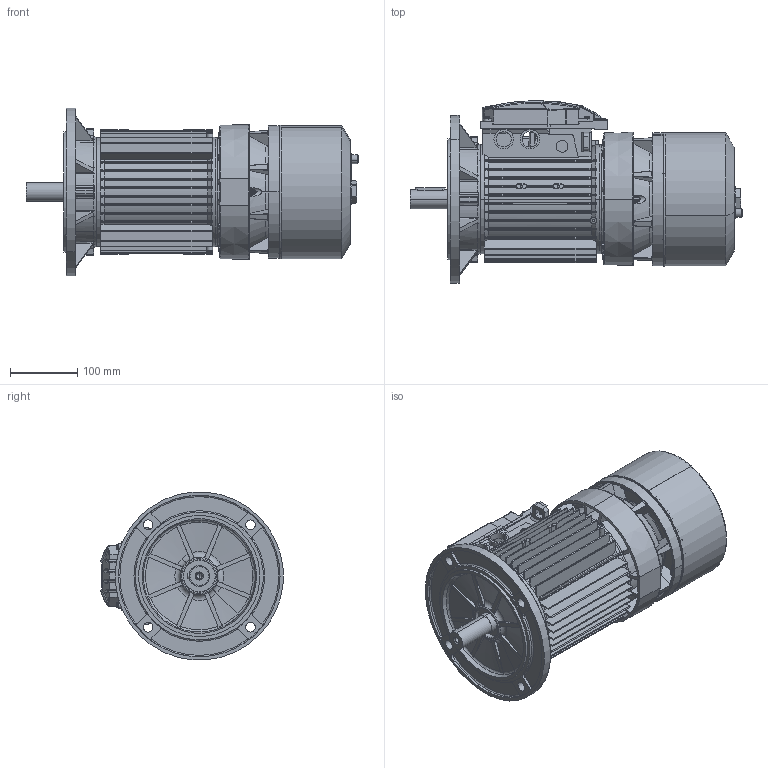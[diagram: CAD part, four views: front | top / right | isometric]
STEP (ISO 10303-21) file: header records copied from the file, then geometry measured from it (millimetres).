
FILE_DESCRIPTION (( 'STEP AP214' ), '1' );
FILE_NAME ('M02GB0016.STEP', '2021-09-17T10:55:03', ( '' ), ( '' ), 'SwSTEP 2.0', 'SolidWorks 2018', '' );
FILE_SCHEMA (( 'AUTOMOTIVE_DESIGN' ));
Length unit declared in the file: millimetre
Products named in the file (14): Convogliatore con pista d''attrito P2 BA 100 - DEAF0295; Scudo Lato Freno BA 100 P1 - DEAE0194; Scudo a flangia B5 Fi 250 BA-BM 100 - DEAA0094; Carcassa 100 B5 - DI; M02GB0016; Chiavetta 100-112; Anello per Gruppo Freno 100 - DBAU0294; Assieme coperchio scatola DI 100-112; Vite  a testa bombata M4x16; Guarnizione Coperchio scatola 100-112 DI; Coperchio 100-112 DI; Vite a Testa Esagona con foro e tappo 71-112 - Modificata; Cuffia serie BA 100; Albero BA 100
Assembly tree (16 placements, depth 3):
  M02GB0016
    Carcassa 100 B5 - DI
    Scudo a flangia B5 Fi 250 BA-BM 100 - DEAA0094
    Scudo Lato Freno BA 100 P1 - DEAE0194
    Convogliatore con pista d''attrito P2 BA 100 - DEAF0295
    Albero BA 100
    Cuffia serie BA 100
    Vite a Testa Esagona con foro e tappo 71-112 - Modificata
    Assieme coperchio scatola DI 100-112
      Coperchio 100-112 DI
      Guarnizione Coperchio scatola 100-112 DI
      Vite  a testa bombata M4x16  x4
    Anello per Gruppo Freno 100 - DBAU0294
    Chiavetta 100-112
Bounding box: 493.18 x 270.72 x 249.05 mm (x, y, z)
Volume: 2451543.6 mm3; surface area: 1225495.6 mm2
Topology: 15 solids, 15 shells, 3703 faces, 10133 edges, 6443 vertices
Faces by surface type: plane 1359, cylinder 988, bspline 529, torus 409, cone 384, sphere 34
Entity records: 165639 total; most frequent: CARTESIAN_POINT 67719, ORIENTED_EDGE 19226, DIRECTION 15574, EDGE_CURVE 9613, VERTEX_POINT 6207, AXIS2_PLACEMENT_3D 5656, VECTOR 4262, LINE 4262
